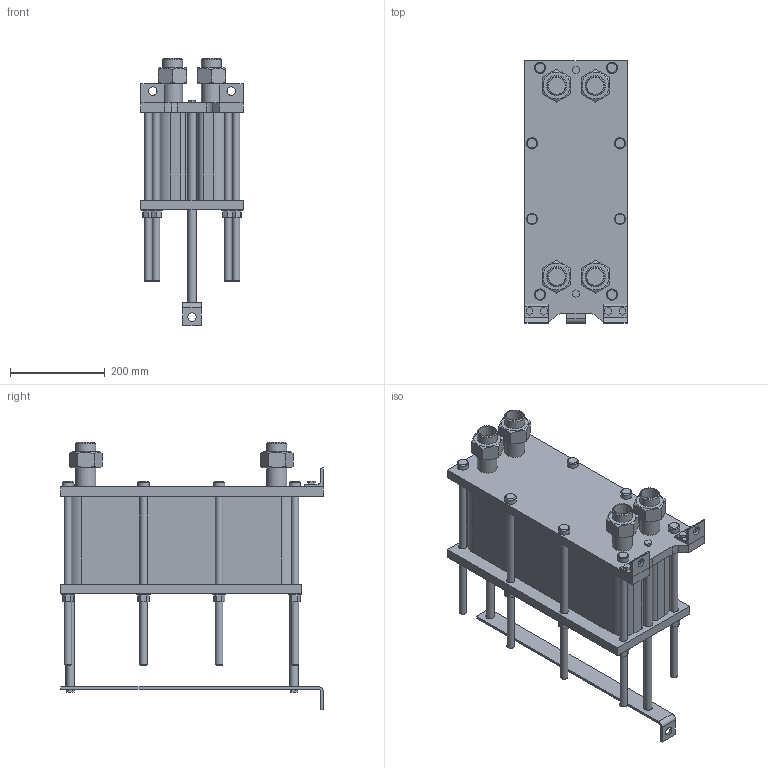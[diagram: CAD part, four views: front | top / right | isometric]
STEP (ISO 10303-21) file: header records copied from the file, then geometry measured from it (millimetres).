
FILE_DESCRIPTION(/* description */ (''),/* implementation_level */ '2;1');
FILE_NAME(/* name */ 'C:\Users\zhuro\Desktop\ENCO\TO\ЭН-004\ЭН-0,5-004-60-1.stp',/* time_stamp */ '2022-06-06T10:48:03+03:00',/* author */ ('zhuro'),/* organization */ (''),/* preprocessor_version */ 'ST-DEVELOPER v18.1',/* originating_system */ 'Autodesk Inventor 2022',/* authorisation */ '');
FILE_SCHEMA (('AUTOMOTIVE_DESIGN { 1 0 10303 214 3 1 1 }'));
Length unit declared in the file: millimetre
Products named in the file (1): ЭН-0,5-004-60-1
Bounding box: 216 x 555 x 565 mm (x, y, z)
Volume: 19563394.5 mm3; surface area: 1361641 mm2
Topology: 40 solids, 40 shells, 403 faces, 865 edges, 574 vertices
Faces by surface type: plane 272, cylinder 103, cone 28
Full cylindrical faces by diameter (mm): 10 x4, 16 x16, 18 x29, 20 x2, 24 x8, 28 x8, 36.3 x5, 42.3 x9
Entity records: 11137 total; most frequent: CARTESIAN_POINT 1939, DIRECTION 1879, ORIENTED_EDGE 1730, EDGE_CURVE 865, AXIS2_PLACEMENT_3D 658, VERTEX_POINT 574, LINE 563, VECTOR 563
